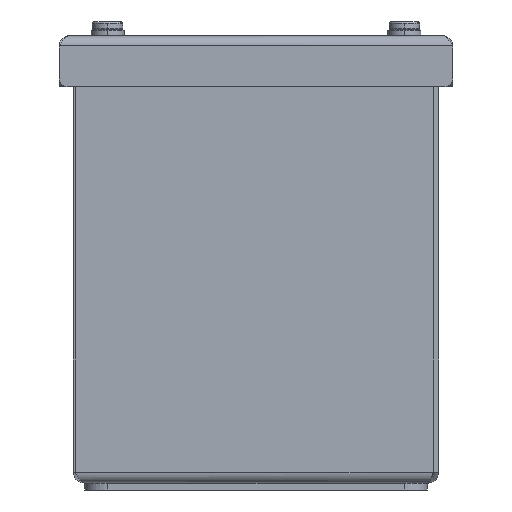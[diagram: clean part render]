
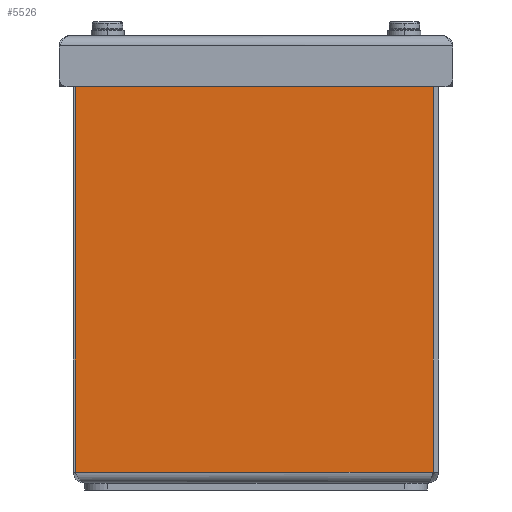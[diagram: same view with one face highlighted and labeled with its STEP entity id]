
A CAD part, left-side view. The second image highlights one B-rep face of the part: STEP entity #5526.
In plain terms, the highlighted planar face has unit normal (-1, 0, 0).
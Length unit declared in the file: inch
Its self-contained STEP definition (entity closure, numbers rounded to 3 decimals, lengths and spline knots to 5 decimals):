
#266=DIRECTION('',(0.,-1.,0.));
#267=VECTOR('',#266,3.918);
#268=CARTESIAN_POINT('',(0.,3.978,0.12));
#269=LINE('',#268,#267);
#1711=DIRECTION('',(0.,-1.,0.));
#1712=VECTOR('',#1711,3.22175);
#1713=CARTESIAN_POINT('',(0.,3.978,4.638));
#1714=LINE('',#1713,#1712);
#1803=DIRECTION('',(0.,0.,1.));
#1804=VECTOR('',#1803,0.052);
#1805=CARTESIAN_POINT('',(0.,0.75625,4.638));
#1806=LINE('',#1805,#1804);
#1810=DIRECTION('',(0.,1.,0.));
#1811=VECTOR('',#1810,0.64425);
#1812=CARTESIAN_POINT('',(0.,0.112,4.69));
#1813=LINE('',#1812,#1811);
#1817=CARTESIAN_POINT('',(0.,0.112,4.638));
#1818=DIRECTION('',(-1.,0.,0.));
#1819=DIRECTION('',(0.,-1.,0.));
#1820=AXIS2_PLACEMENT_3D('',#1817,#1818,#1819);
#1825=DIRECTION('',(0.,0.,1.));
#1826=VECTOR('',#1825,4.518);
#1827=CARTESIAN_POINT('',(0.,3.978,0.12));
#1828=LINE('',#1827,#1826);
#1874=DIRECTION('',(0.,0.,1.));
#1875=VECTOR('',#1874,4.518);
#1876=CARTESIAN_POINT('',(0.,0.06,0.12));
#1877=LINE('',#1876,#1875);
#3583=CARTESIAN_POINT('',(0.,0.75625,4.638));
#3584=CARTESIAN_POINT('',(0.,0.75625,4.69));
#3585=VERTEX_POINT('',#3583);
#3586=VERTEX_POINT('',#3584);
#3631=CARTESIAN_POINT('',(0.,0.06,4.638));
#3632=CARTESIAN_POINT('',(0.,0.112,4.69));
#3633=VERTEX_POINT('',#3631);
#3634=VERTEX_POINT('',#3632);
#3639=CARTESIAN_POINT('',(0.,0.06,0.12));
#3640=VERTEX_POINT('',#3639);
#3643=CARTESIAN_POINT('',(0.,3.978,0.12));
#3644=CARTESIAN_POINT('',(0.,3.978,4.638));
#3645=VERTEX_POINT('',#3643);
#3646=VERTEX_POINT('',#3644);
#5507=CARTESIAN_POINT('',(0.,4.,0.));
#5508=DIRECTION('',(-1.,0.,0.));
#5509=DIRECTION('',(0.,-1.,0.));
#5510=AXIS2_PLACEMENT_3D('',#5507,#5508,#5509);
#5511=PLANE('',#5510);
#5512=ORIENTED_EDGE('',*,*,#5496,.T.);
#5514=ORIENTED_EDGE('',*,*,#5513,.T.);
#5516=ORIENTED_EDGE('',*,*,#5515,.F.);
#5518=ORIENTED_EDGE('',*,*,#5517,.F.);
#5520=ORIENTED_EDGE('',*,*,#5519,.F.);
#5521=ORIENTED_EDGE('',*,*,#4188,.F.);
#5523=ORIENTED_EDGE('',*,*,#5522,.T.);
#5524=EDGE_LOOP('',(#5512,#5514,#5516,#5518,#5520,#5521,#5523));
#5525=FACE_OUTER_BOUND('',#5524,.F.);
#1821=CIRCLE('',#1820,0.052);
#4188=EDGE_CURVE('',#3645,#3640,#269,.T.);
#5496=EDGE_CURVE('',#3646,#3585,#1714,.T.);
#5513=EDGE_CURVE('',#3585,#3586,#1806,.T.);
#5515=EDGE_CURVE('',#3634,#3586,#1813,.T.);
#5517=EDGE_CURVE('',#3633,#3634,#1821,.T.);
#5519=EDGE_CURVE('',#3640,#3633,#1877,.T.);
#5522=EDGE_CURVE('',#3645,#3646,#1828,.T.);
#5526=ADVANCED_FACE('',(#5525),#5511,.T.);
